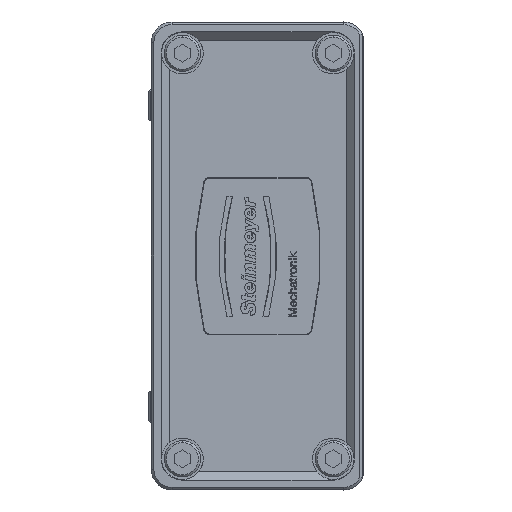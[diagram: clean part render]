
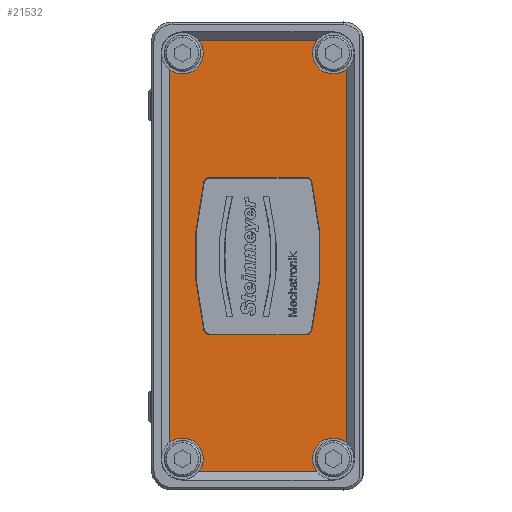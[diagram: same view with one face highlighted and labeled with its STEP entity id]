
A CAD part, left-side view. The second image highlights one B-rep face of the part: STEP entity #21532.
In plain terms, the highlighted planar face has unit normal (-1, 0, 0) as drawn and (0, 0, 1) by its records, which use the part's own axes.
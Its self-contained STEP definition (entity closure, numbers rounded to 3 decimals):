
#2738=CARTESIAN_POINT('',(-39.,6.,117.));
#2739=DIRECTION('',(0.,0.,1.));
#2740=DIRECTION('',(0.781,-0.625,0.));
#2741=AXIS2_PLACEMENT_3D('',#2738,#2739,#2740);
#2746=CARTESIAN_POINT('',(-39.,6.,117.));
#2747=DIRECTION('',(0.,0.,1.));
#2748=DIRECTION('',(0.,1.,0.));
#2749=AXIS2_PLACEMENT_3D('',#2746,#2747,#2748);
#2754=DIRECTION('',(0.,1.,0.));
#2755=VECTOR('',#2754,22.755);
#2756=CARTESIAN_POINT('',(-41.5,9.122,117.));
#2757=LINE('1316',#2756,#2755);
#2761=CARTESIAN_POINT('',(-39.,35.,117.));
#2762=DIRECTION('',(0.,0.,1.));
#2763=DIRECTION('',(-0.625,-0.781,0.));
#2764=AXIS2_PLACEMENT_3D('',#2761,#2762,#2763);
#2769=CARTESIAN_POINT('',(-39.,35.,117.));
#2770=DIRECTION('',(0.,0.,1.));
#2771=DIRECTION('',(0.,-1.,0.));
#2772=AXIS2_PLACEMENT_3D('',#2769,#2770,#2771);
#2777=DIRECTION('',(1.,0.,0.));
#2778=VECTOR('',#2777,71.755);
#2779=CARTESIAN_POINT('',(-35.878,37.5,117.));
#2780=LINE('1319',#2779,#2778);
#2784=CARTESIAN_POINT('',(39.,35.,117.));
#2785=DIRECTION('',(0.,0.,1.));
#2786=DIRECTION('',(-0.781,0.625,0.));
#2787=AXIS2_PLACEMENT_3D('',#2784,#2785,#2786);
#2792=CARTESIAN_POINT('',(39.,35.,117.));
#2793=DIRECTION('',(0.,0.,1.));
#2794=DIRECTION('',(0.,-1.,0.));
#2795=AXIS2_PLACEMENT_3D('',#2792,#2793,#2794);
#2800=DIRECTION('',(0.,-1.,0.));
#2801=VECTOR('',#2800,22.755);
#2802=CARTESIAN_POINT('',(41.5,31.878,117.));
#2803=LINE('1321',#2802,#2801);
#2807=CARTESIAN_POINT('',(39.,6.,117.));
#2808=DIRECTION('',(0.,0.,1.));
#2809=DIRECTION('',(0.625,0.781,0.));
#2810=AXIS2_PLACEMENT_3D('',#2807,#2808,#2809);
#2815=CARTESIAN_POINT('',(39.,6.,117.));
#2816=DIRECTION('',(0.,0.,1.));
#2817=DIRECTION('',(0.,1.,0.));
#2818=AXIS2_PLACEMENT_3D('',#2815,#2816,#2817);
#2823=DIRECTION('',(-1.,0.,0.));
#2824=VECTOR('',#2823,71.755);
#2825=CARTESIAN_POINT('',(35.878,3.5,117.));
#2826=LINE('1324',#2825,#2824);
#2830=CARTESIAN_POINT('',(14.,29.815,117.));
#2831=DIRECTION('',(0.,0.,1.));
#2832=DIRECTION('',(1.,0.,0.));
#2833=AXIS2_PLACEMENT_3D('',#2830,#2831,#2832);
#2838=CARTESIAN_POINT('',(0.,-27.5,117.));
#2839=DIRECTION('',(0.,0.,1.));
#2840=DIRECTION('',(0.237,0.971,0.));
#2841=AXIS2_PLACEMENT_3D('',#2838,#2839,#2840);
#2846=CARTESIAN_POINT('',(-14.,29.815,117.));
#2847=DIRECTION('',(0.,0.,1.));
#2848=DIRECTION('',(-0.237,0.971,0.));
#2849=AXIS2_PLACEMENT_3D('',#2846,#2847,#2848);
#2854=CARTESIAN_POINT('',(-14.,11.185,117.));
#2855=DIRECTION('',(0.,0.,1.));
#2856=DIRECTION('',(-1.,0.,0.));
#2857=AXIS2_PLACEMENT_3D('',#2854,#2855,#2856);
#2862=CARTESIAN_POINT('',(0.,68.5,117.));
#2863=DIRECTION('',(0.,0.,1.));
#2864=DIRECTION('',(-0.237,-0.971,0.));
#2865=AXIS2_PLACEMENT_3D('',#2862,#2863,#2864);
#2870=CARTESIAN_POINT('',(14.,11.185,117.));
#2871=DIRECTION('',(0.,0.,1.));
#2872=DIRECTION('',(0.237,-0.971,0.));
#2873=AXIS2_PLACEMENT_3D('',#2870,#2871,#2872);
#4026=DIRECTION('',(0.,-1.,0.));
#4027=VECTOR('',#4026,18.63);
#4028=CARTESIAN_POINT('',(15.1,29.815,117.));
#4029=LINE('1332',#4028,#4027);
#4061=DIRECTION('',(0.,1.,0.));
#4062=VECTOR('',#4061,18.63);
#4063=CARTESIAN_POINT('',(-15.1,11.185,117.));
#4064=LINE('1328',#4063,#4062);
#17870=CARTESIAN_POINT('',(39.,31.,117.));
#17871=CARTESIAN_POINT('',(41.5,31.878,117.));
#17872=VERTEX_POINT('',#17870);
#17873=VERTEX_POINT('',#17871);
#17879=CARTESIAN_POINT('',(-35.878,3.5,117.));
#17880=CARTESIAN_POINT('',(-39.,10.,117.));
#17881=VERTEX_POINT('',#17879);
#17882=VERTEX_POINT('',#17880);
#17883=CARTESIAN_POINT('',(-41.5,9.122,117.));
#17884=VERTEX_POINT('',#17883);
#17885=CARTESIAN_POINT('',(-41.5,31.878,117.));
#17886=VERTEX_POINT('',#17885);
#17887=CARTESIAN_POINT('',(-39.,31.,117.));
#17888=VERTEX_POINT('',#17887);
#17889=CARTESIAN_POINT('',(-35.878,37.5,117.));
#17890=VERTEX_POINT('',#17889);
#17891=CARTESIAN_POINT('',(35.878,37.5,117.));
#17892=VERTEX_POINT('',#17891);
#17893=CARTESIAN_POINT('',(41.5,9.122,117.));
#17894=VERTEX_POINT('',#17893);
#17895=CARTESIAN_POINT('',(39.,10.,117.));
#17896=VERTEX_POINT('',#17895);
#17897=CARTESIAN_POINT('',(35.878,3.5,117.));
#17898=VERTEX_POINT('',#17897);
#17899=CARTESIAN_POINT('',(15.1,29.815,117.));
#17900=CARTESIAN_POINT('',(14.261,30.884,117.));
#17901=VERTEX_POINT('',#17899);
#17902=VERTEX_POINT('',#17900);
#17903=CARTESIAN_POINT('',(-14.261,30.884,117.));
#17904=VERTEX_POINT('',#17903);
#17905=CARTESIAN_POINT('',(-15.1,29.815,117.));
#17906=VERTEX_POINT('',#17905);
#17907=CARTESIAN_POINT('',(-15.1,11.185,117.));
#17908=VERTEX_POINT('',#17907);
#17909=CARTESIAN_POINT('',(-14.261,10.116,117.));
#17910=VERTEX_POINT('',#17909);
#17911=CARTESIAN_POINT('',(14.261,10.116,117.));
#17912=VERTEX_POINT('',#17911);
#17913=CARTESIAN_POINT('',(15.1,11.185,117.));
#17914=VERTEX_POINT('',#17913);
#21484=CARTESIAN_POINT('',(45.,20.5,117.));
#21485=DIRECTION('',(0.,0.,1.));
#21486=DIRECTION('',(1.,0.,0.));
#21487=AXIS2_PLACEMENT_3D('',#21484,#21485,#21486);
#21488=PLANE('335',#21487);
#21490=ORIENTED_EDGE('1314',*,*,#21489,.T.);
#21492=ORIENTED_EDGE('1315',*,*,#21491,.T.);
#21494=ORIENTED_EDGE('1316',*,*,#21493,.T.);
#21496=ORIENTED_EDGE('1317',*,*,#21495,.T.);
#21498=ORIENTED_EDGE('1318',*,*,#21497,.T.);
#21500=ORIENTED_EDGE('1319',*,*,#21499,.T.);
#21502=ORIENTED_EDGE('1320',*,*,#21501,.T.);
#21503=ORIENTED_EDGE('1308',*,*,#21468,.T.);
#21505=ORIENTED_EDGE('1321',*,*,#21504,.T.);
#21507=ORIENTED_EDGE('1322',*,*,#21506,.T.);
#21509=ORIENTED_EDGE('1323',*,*,#21508,.T.);
#21511=ORIENTED_EDGE('1324',*,*,#21510,.T.);
#21512=EDGE_LOOP('335',(#21490,#21492,#21494,#21496,#21498,#21500,#21502,#21503,
#21505,#21507,#21509,#21511));
#21513=FACE_OUTER_BOUND('335',#21512,.F.);
#21515=ORIENTED_EDGE('1325',*,*,#21514,.T.);
#21517=ORIENTED_EDGE('1326',*,*,#21516,.T.);
#21519=ORIENTED_EDGE('1327',*,*,#21518,.T.);
#21521=ORIENTED_EDGE('1328',*,*,#21520,.F.);
#21523=ORIENTED_EDGE('1329',*,*,#21522,.T.);
#21525=ORIENTED_EDGE('1330',*,*,#21524,.T.);
#21527=ORIENTED_EDGE('1331',*,*,#21526,.T.);
#21529=ORIENTED_EDGE('1332',*,*,#21528,.F.);
#21530=EDGE_LOOP('335',(#21515,#21517,#21519,#21521,#21523,#21525,#21527,
#21529));
#21531=FACE_BOUND('335',#21530,.F.);
#2742=CIRCLE('1314',#2741,4.);
#2750=CIRCLE('1315',#2749,4.);
#2765=CIRCLE('1317',#2764,4.);
#2773=CIRCLE('1318',#2772,4.);
#2788=CIRCLE('1320',#2787,4.);
#2796=CIRCLE('1308',#2795,4.);
#2811=CIRCLE('1322',#2810,4.);
#2819=CIRCLE('1323',#2818,4.);
#2834=CIRCLE('1325',#2833,1.1);
#2842=CIRCLE('1326',#2841,60.1);
#2850=CIRCLE('1327',#2849,1.1);
#2858=CIRCLE('1329',#2857,1.1);
#2866=CIRCLE('1330',#2865,60.1);
#2874=CIRCLE('1331',#2873,1.1);
#21468=EDGE_CURVE('1308',#17872,#17873,#2796,.T.);
#21489=EDGE_CURVE('1314',#17881,#17882,#2742,.T.);
#21491=EDGE_CURVE('1315',#17882,#17884,#2750,.T.);
#21493=EDGE_CURVE('1316',#17884,#17886,#2757,.T.);
#21495=EDGE_CURVE('1317',#17886,#17888,#2765,.T.);
#21497=EDGE_CURVE('1318',#17888,#17890,#2773,.T.);
#21499=EDGE_CURVE('1319',#17890,#17892,#2780,.T.);
#21501=EDGE_CURVE('1320',#17892,#17872,#2788,.T.);
#21504=EDGE_CURVE('1321',#17873,#17894,#2803,.T.);
#21506=EDGE_CURVE('1322',#17894,#17896,#2811,.T.);
#21508=EDGE_CURVE('1323',#17896,#17898,#2819,.T.);
#21510=EDGE_CURVE('1324',#17898,#17881,#2826,.T.);
#21514=EDGE_CURVE('1325',#17901,#17902,#2834,.T.);
#21516=EDGE_CURVE('1326',#17902,#17904,#2842,.T.);
#21518=EDGE_CURVE('1327',#17904,#17906,#2850,.T.);
#21520=EDGE_CURVE('1328',#17908,#17906,#4064,.T.);
#21522=EDGE_CURVE('1329',#17908,#17910,#2858,.T.);
#21524=EDGE_CURVE('1330',#17910,#17912,#2866,.T.);
#21526=EDGE_CURVE('1331',#17912,#17914,#2874,.T.);
#21528=EDGE_CURVE('1332',#17901,#17914,#4029,.T.);
#21532=ADVANCED_FACE('335',(#21513,#21531),#21488,.T.);
